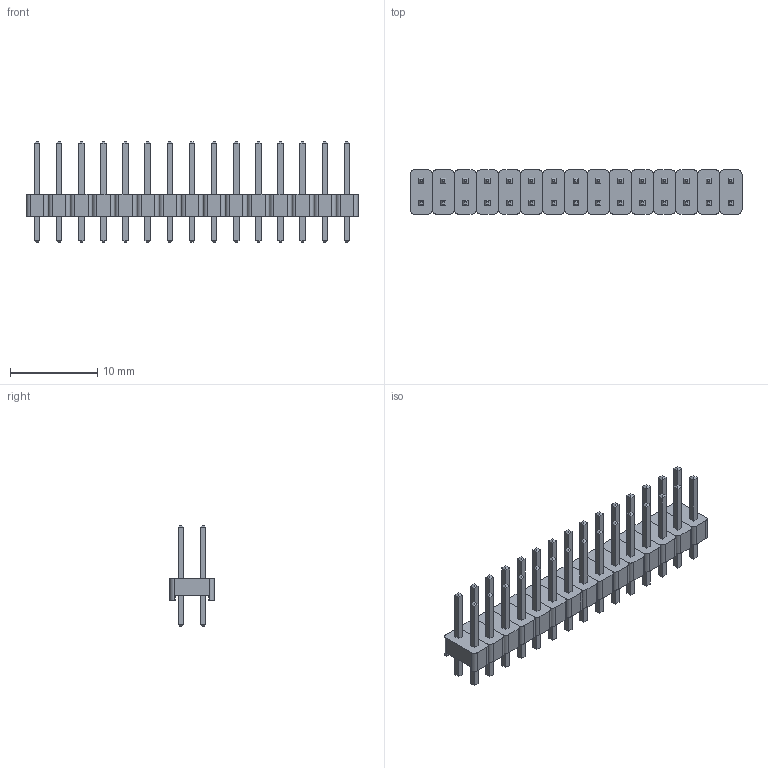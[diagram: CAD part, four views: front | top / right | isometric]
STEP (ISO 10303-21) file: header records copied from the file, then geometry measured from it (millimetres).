
FILE_DESCRIPTION(('FreeCAD Model'),'2;1');
FILE_NAME('Open CASCADE Shape Model','2022-04-06T15:59:12',( 'Engenharia Metaltex'),('Metaltex'), 'Open CASCADE STEP processor 7.5','FreeCAD','Unknown');
FILE_SCHEMA(('AUTOMOTIVE_DESIGN { 1 0 10303 214 1 1 1 1 }'));
Length unit declared in the file: millimetre
Products named in the file (61): BPDC; 15; Base014; Pino029; Pino030; 1; Base; Pino1; Pino2; 2; Base001; Pino003; Pino004; 3; Base002; Pino006; Pino005; 4; Base003; Pino008; Pino007; 5; Base004; Pino009; Pino010; 6; Base005; Pino012; Pino011; 7; Base006; Pino013; Pino014; 8; Base007; Pino015; Pino016; 9; Base008; Pino017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
Assembly tree (60 placements, depth 3):
  BPDC
    15
      Base014
      Pino029
      Pino030
    1
      Base
      Pino1
      Pino2
    2
      Base001
      Pino003
      Pino004
    3
      Base002
      Pino006
      Pino005
    4
      Base003
      Pino008
      Pino007
    5
      Base004
      Pino009
      Pino010
    6
      Base005
      Pino012
      Pino011
    7
      Base006
      Pino013
      Pino014
    8
      Base007
      Pino015
      Pino016
    9
      Base008
      Pino017
      Pino018
    10
      Base009
      Pino019
      Pino020
    11
      Base010
      Pino021
      Pino022
    12
      Base011
      Pino023
      Pino024
    13
      Base012
      Pino025
      Pino026
    14
      Base013
      Pino027
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Bounding box: 38.1 x 5.08 x 11.54 mm (x, y, z)
Volume: 523.8 mm3; surface area: 1929.5 mm2
Topology: 45 solids, 45 shells, 750 faces, 1740 edges, 1080 vertices
Faces by surface type: plane 690, cylinder 60
Entity records: 45019 total; most frequent: CARTESIAN_POINT 7471, DIRECTION 6902, LINE 4980, VECTOR 4980, ORIENTED_EDGE 3480, PCURVE 3480, DEFINITIONAL_REPRESENTATION 3480, EDGE_CURVE 1740
